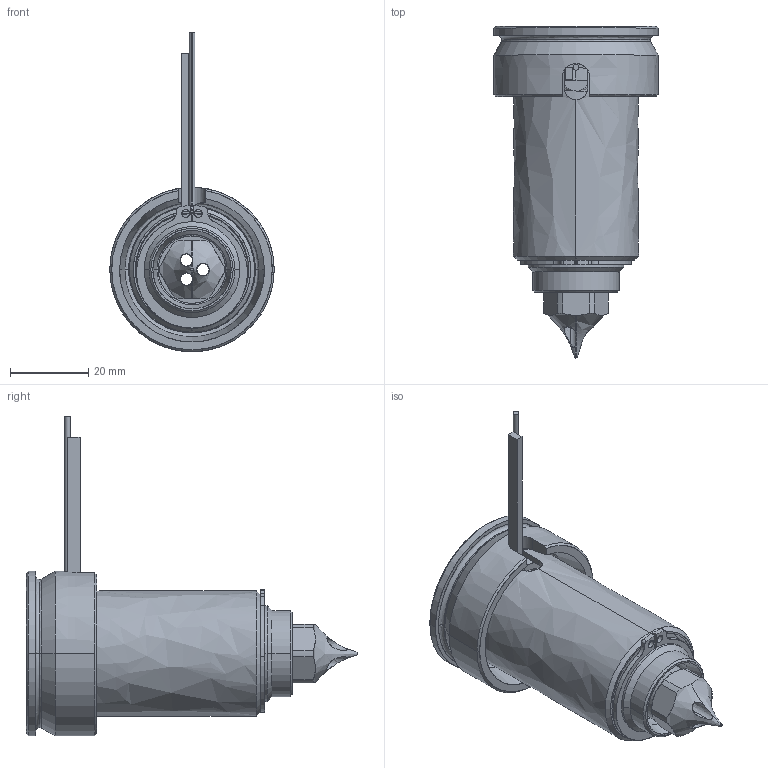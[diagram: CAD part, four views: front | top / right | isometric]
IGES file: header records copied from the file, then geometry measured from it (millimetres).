
Start section: SolidWorks IGES file using analytic representation for surfaces
Global section: file name: C:\Users\luca.EMPAD\Desktop\TEM\UGDL3612-S-A-1 [Øf=0.6 ØC=10].IGS; native system: SolidWorks 2012; preprocessor: SolidWorks 2012; author: luca; date: 120330.160448; units: millimetre
Bounding box: 42 x 84.8 x 81.65 mm (x, y, z)
Surface area: 26943.1 mm2 (no closed solid volume)
Topology: 0 solids, 0 shells, 126 faces, 2302 edges, 2302 vertices
Faces by surface type: revolution 79, bspline 47
